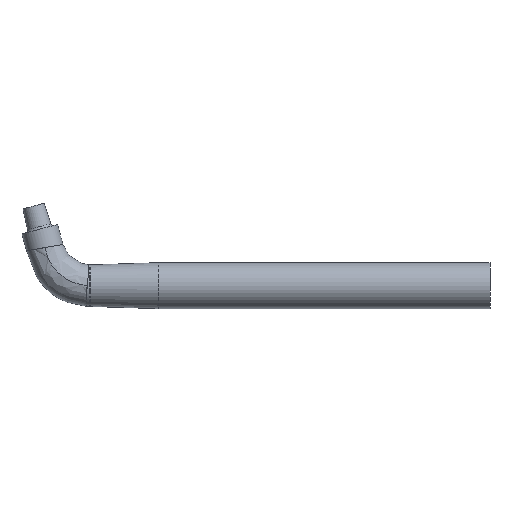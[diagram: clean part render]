
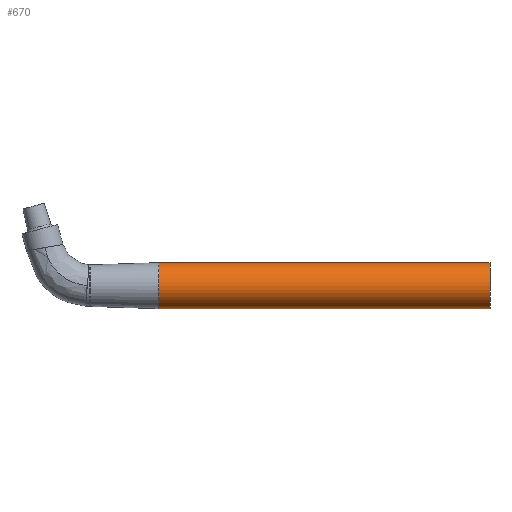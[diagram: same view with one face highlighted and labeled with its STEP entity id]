
A CAD part, top view. The second image highlights one B-rep face of the part: STEP entity #670.
In plain terms, the highlighted cylindrical face has radius 12.5 mm (diameter 25 mm), a partial arc.
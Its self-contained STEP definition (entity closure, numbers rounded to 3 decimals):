
#670=ADVANCED_FACE('',(#935),#934,.T.);
#934=CYLINDRICAL_SURFACE('',#1340,12.5);
#935=FACE_OUTER_BOUND('',#1341,.T.);
#1337=CARTESIAN_POINT('',(312.695,182.717,0.));
#1338=DIRECTION('',(-1.,0.,0.));
#1339=DIRECTION('',(0.,1.,0.));
#1340=AXIS2_PLACEMENT_3D('',#1337,#1338,#1339);
#1341=EDGE_LOOP('',(#2680,#2681,#2682,#2683));
#2680=ORIENTED_EDGE('',*,*,#2773,.T.);
#2681=ORIENTED_EDGE('',*,*,#2832,.T.);
#2682=ORIENTED_EDGE('',*,*,#2820,.T.);
#2683=ORIENTED_EDGE('',*,*,#2833,.F.);
#2773=EDGE_CURVE('',#2929,#2928,#2936,.T.);
#2820=EDGE_CURVE('',#3252,#3253,#3254,.T.);
#2832=EDGE_CURVE('',#2928,#3252,#3330,.T.);
#2833=EDGE_CURVE('',#2929,#3253,#3336,.T.);
#2928=VERTEX_POINT('',#3567);
#2929=VERTEX_POINT('',#3568);
#2936=CIRCLE('',#3576,12.5);
#3252=VERTEX_POINT('',#3854);
#3253=VERTEX_POINT('',#3855);
#3254=CIRCLE('',#3859,12.5);
#3330=(BOUNDED_CURVE() B_SPLINE_CURVE(1,(#3898,#3899),.UNSPECIFIED.,.F.,.F.) B_SPLINE_CURVE_WITH_KNOTS((2,2),(0.05,0.95),.UNSPECIFIED.) CURVE() GEOMETRIC_REPRESENTATION_ITEM() RATIONAL_B_SPLINE_CURVE((1.,1.)) REPRESENTATION_ITEM('') );
#3336=(BOUNDED_CURVE() B_SPLINE_CURVE(1,(#3900,#3901),.UNSPECIFIED.,.F.,.F.) B_SPLINE_CURVE_WITH_KNOTS((2,2),(0.05,0.95),.UNSPECIFIED.) CURVE() GEOMETRIC_REPRESENTATION_ITEM() RATIONAL_B_SPLINE_CURVE((0.75,0.75)) REPRESENTATION_ITEM('') );
#3567=CARTESIAN_POINT('',(492.695,195.217,0.));
#3568=CARTESIAN_POINT('',(492.695,170.217,0.));
#3573=CARTESIAN_POINT('',(492.695,182.717,0.));
#3574=DIRECTION('',(-1.,0.,0.));
#3575=DIRECTION('',(0.,-1.,0.));
#3576=AXIS2_PLACEMENT_3D('',#3573,#3574,#3575);
#3854=CARTESIAN_POINT('',(312.695,195.217,0.));
#3855=CARTESIAN_POINT('',(312.695,170.217,0.));
#3856=CARTESIAN_POINT('',(312.695,182.717,0.));
#3857=DIRECTION('',(1.,0.,0.));
#3858=DIRECTION('',(0.,-1.,0.));
#3859=AXIS2_PLACEMENT_3D('',#3856,#3857,#3858);
#3898=CARTESIAN_POINT('',(492.695,195.217,0.));
#3899=CARTESIAN_POINT('',(312.695,195.217,0.));
#3900=CARTESIAN_POINT('',(492.695,170.217,0.));
#3901=CARTESIAN_POINT('',(312.695,170.217,0.));
